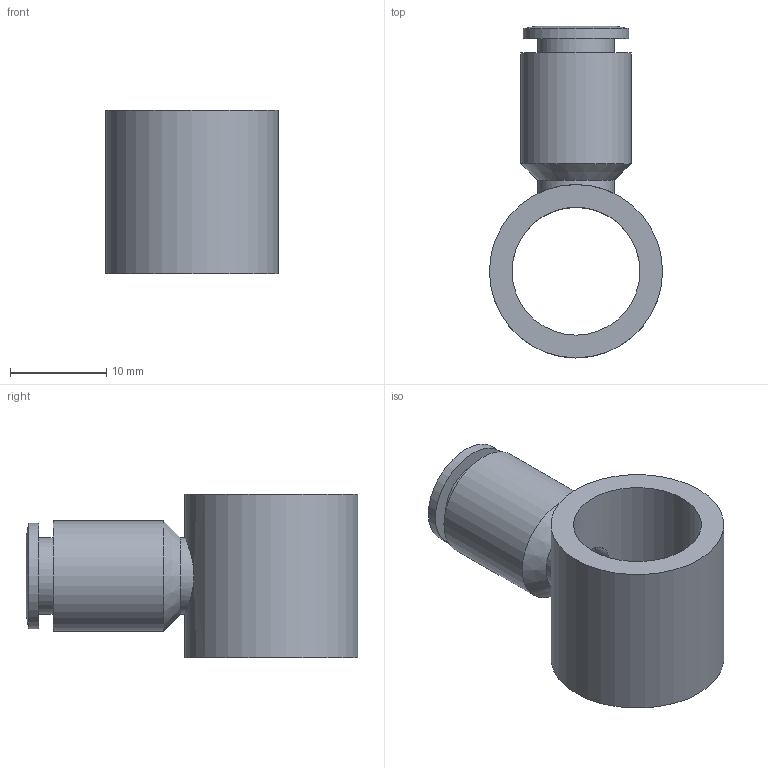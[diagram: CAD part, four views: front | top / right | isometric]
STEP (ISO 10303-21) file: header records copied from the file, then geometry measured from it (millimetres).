
FILE_DESCRIPTION((''),'2;1');
FILE_NAME('C:\Documents and Settings\rivolro1\Documenti\copia di Raccordi\PLASTICA\T13XXXX\T130614.stp','2007-10-30T17:37:02',('Rivolro1'),(''),'Autodesk Inventor 2008','Autodesk Inventor 2008','');
FILE_SCHEMA(('AUTOMOTIVE_DESIGN { 1 0 10303 214 1 1 1 1 }'));
Length unit declared in the file: millimetre
Products named in the file (1): T130614
Bounding box: 18 x 34.5 x 17 mm (x, y, z)
Volume: 2972.6 mm3; surface area: 2964.6 mm2
Topology: 1 solids, 1 shells, 16 faces, 27 edges, 17 vertices
Faces by surface type: cylinder 6, plane 5, bspline 3, cone 2
Full cylindrical faces by diameter (mm): 8 x2, 11 x1, 11.5 x1, 13.3 x1, 18 x1
Entity records: 534 total; most frequent: CARTESIAN_POINT 217, DIRECTION 58, ORIENTED_EDGE 34, EDGE_LOOP 34, AXIS2_PLACEMENT_3D 29, FACE_BOUND 18, VERTEX_POINT 17, EDGE_CURVE 17
